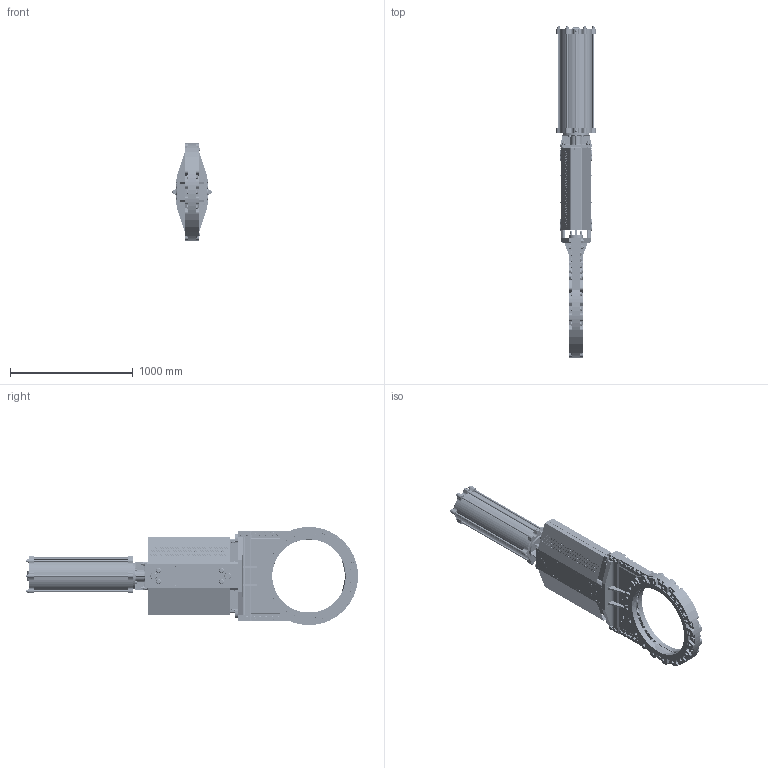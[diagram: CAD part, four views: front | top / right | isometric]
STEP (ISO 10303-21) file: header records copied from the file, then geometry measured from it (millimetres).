
FILE_DESCRIPTION(/* description */ (''),/* implementation_level */ '2;1');
FILE_NAME(/* name */ 'F:\Emir\3D-block special\WB\WB14E-WEE-DN600-PN10-FRSC250-630.stp',/* time_stamp */ '2018-07-05T10:24:43+02:00',/* author */ ('emimus'),/* organization */ (''),/* preprocessor_version */ 'ST-DEVELOPER v17',/* originating_system */ 'Autodesk Inventor 2018',/* authorisation */ '');
FILE_SCHEMA (('CONFIG_CONTROL_DESIGN'));
Products named in the file (1): WB14E-WEE-DN600-PN10-FRSC250-630-sat
Bounding box: 322 x 2706.57 x 799.13 mm (x, y, z)
Volume: 62834078 mm3; surface area: 9910936 mm2
Topology: 1 solids, 1 shells, 6065 faces, 16046 edges, 10461 vertices
Faces by surface type: plane 2812, cylinder 1531, bspline 676, cone 576, torus 330, sphere 140
Full cylindrical faces by diameter (mm): 3.6 x16, 4 x2, 4.2 x16, 4.5 x4, 4.917 x23, 5 x2, 6.3 x2, 6.647 x4, 7 x13, 7.5 x4, 8.376 x4, 9.5 x2, 10.106 x6, 11 x4, 12 x20, 12.5 x6, 13 x5, 14 x7, 15 x1, 16 x12, 17 x10, 17.294 x4, 17.5 x6, 18 x1, 18.2 x4, 18.5 x2, 18.631 x2, 20 x39, 21 x8, 23.752 x40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
Entity records: 204924 total; most frequent: CARTESIAN_POINT 56878, ORIENTED_EDGE 31956, DIRECTION 29641, EDGE_CURVE 15978, AXIS2_PLACEMENT_3D 11060, VERTEX_POINT 10461, LINE 7521, VECTOR 7521
